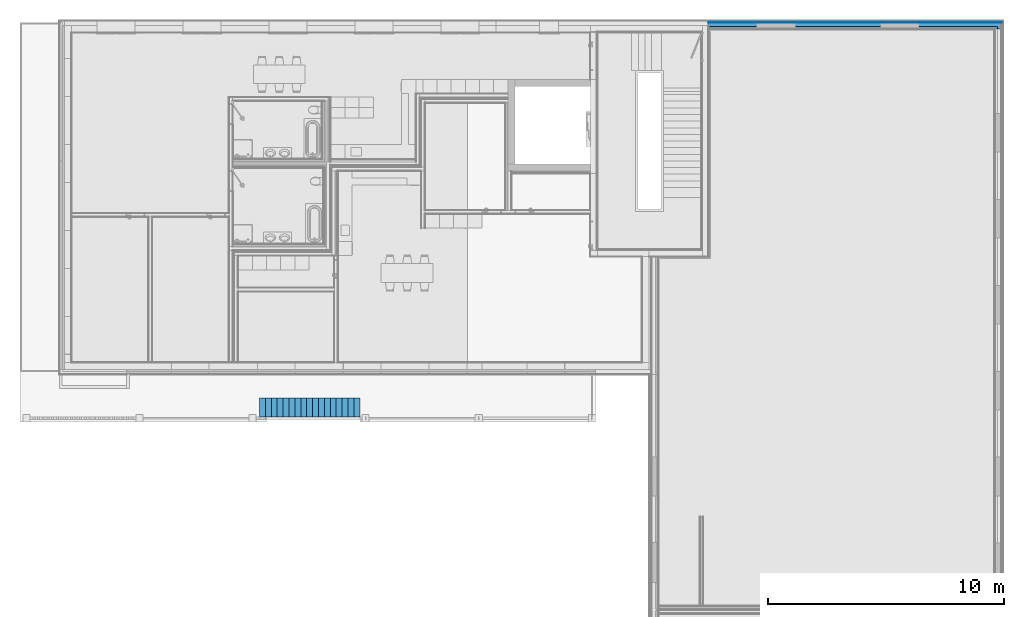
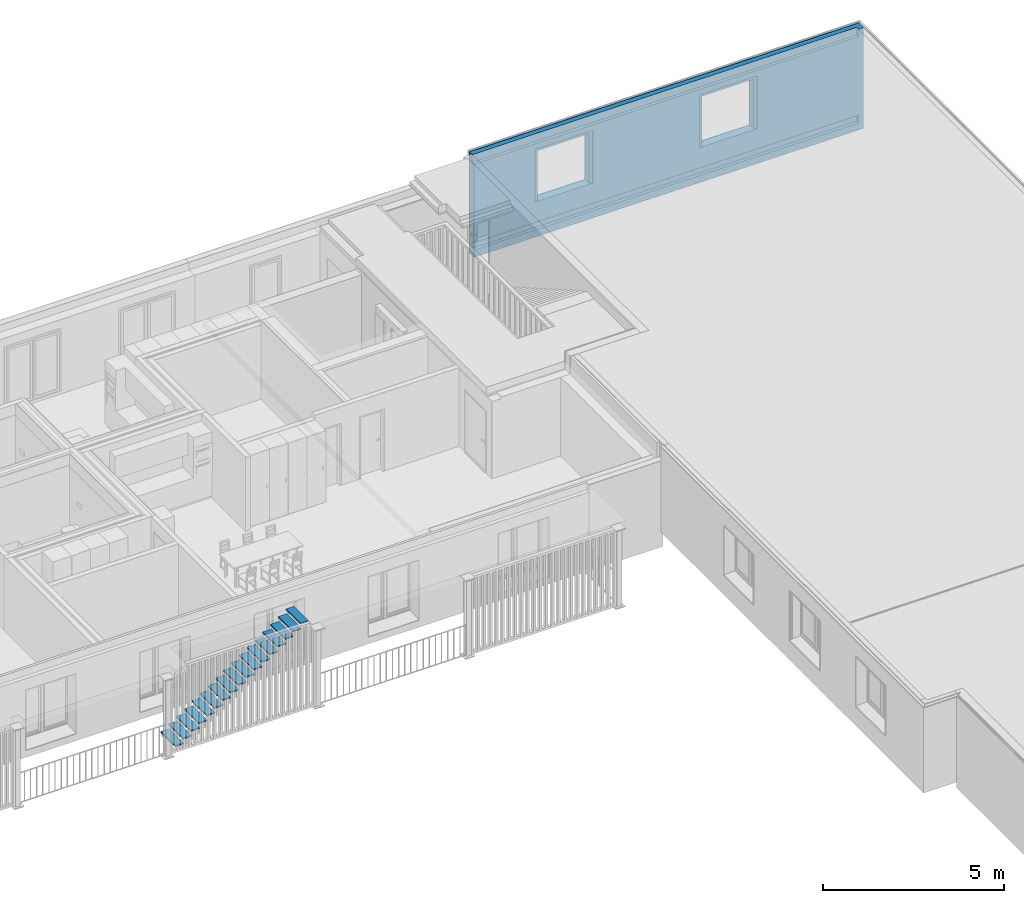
# One storey, part 20 of 34: 19 building element parts, 2 openings, 2 elements without a shape of their own.
"""IFC4 building model written with IfcOpenShell, lengths in millimetres."""

from ifc_helpers import new_model, entity, si_unit, converted_unit, derived_unit, direction, frame, origin_with_axes, place, context, subcontext, project, spatial, polygons, material, type_object, element, aggregate, save


model = new_model("IFC4")

# Units and contexts
model_context = context("Model", 3, precision=0.01, world=origin_with_axes(), true_north=direction((0.0, 1.0)))
body_context = subcontext(model_context, "Body", "Model", "MODEL_VIEW")
ifc_project = project(units=[si_unit("LENGTHUNIT", "METRE", prefix="MILLI"), si_unit("AREAUNIT", "SQUARE_METRE"), si_unit("VOLUMEUNIT", "CUBIC_METRE"), converted_unit("PLANEANGLEUNIT", "DEGREE", entity("IfcPlaneAngleMeasure", 0.0174532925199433), si_unit("PLANEANGLEUNIT", "RADIAN"), dimensions=[0, 0, 0, 0, 0, 0, 0]), converted_unit("TIMEUNIT", "Year", entity("IfcTimeMeasure", 31557600.0), si_unit("TIMEUNIT", "SECOND"), dimensions=[0, 0, 1, 0, 0, 0, 0]), si_unit("MASSUNIT", "GRAM", prefix="KILO"), si_unit("THERMODYNAMICTEMPERATUREUNIT", "DEGREE_CELSIUS"), si_unit("LUMINOUSINTENSITYUNIT", "LUMEN"), si_unit("ENERGYUNIT", "JOULE", prefix="MEGA"), derived_unit("THERMALCONDUCTANCEUNIT", [(si_unit("POWERUNIT", "WATT"), 1), (si_unit("LENGTHUNIT", "METRE"), -1), (si_unit("THERMODYNAMICTEMPERATUREUNIT", "KELVIN"), -1)]), derived_unit("SPECIFICHEATCAPACITYUNIT", [(si_unit("ENERGYUNIT", "JOULE"), 1), (si_unit("MASSUNIT", "GRAM", prefix="KILO"), -1), (si_unit("THERMODYNAMICTEMPERATUREUNIT", "KELVIN"), -1)]), derived_unit("MASSDENSITYUNIT", [(si_unit("MASSUNIT", "GRAM", prefix="KILO"), 1), (si_unit("VOLUMEUNIT", "CUBIC_METRE"), -1)])], contexts=[model_context])

# Site, building, storey
site_placement = place(None, origin_with_axes())
site = spatial("IfcSite", under=ifc_project, at=site_placement, Name="Gelände", CompositionType="ELEMENT")
building_placement = place(site_placement, origin_with_axes())
building = spatial("IfcBuilding", under=site, at=building_placement, Name="Gebäude", CompositionType="ELEMENT")
storey_placement = place(building_placement, frame((0.0, 0.0, 2900.0), z_axis=(0.0, 0.0, 1.0), x_axis=(1.0, 0.0, 0.0)))
storey = spatial("IfcBuildingStorey", under=building, at=storey_placement, Name="1.OG", CompositionType="ELEMENT", Elevation=2900.0)

# Wall, openings, building element parts
wall_type = type_object("IfcWallType", Name="Aussenwand Typ 01 318", PredefinedType="NOTDEFINED")
wall_placement = place(storey_placement, frame((32857.99744477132, 37876.59728131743, 0.0), z_axis=(0.0, 0.0, 1.0), x_axis=(-1.0, 0.0, 0.0)))
wall = element("IfcWall", 1, at=wall_placement, inside=storey, type_object=wall_type, Name="Wand-014", PredefinedType="NOTDEFINED")
opening_1_placement = place(wall_placement, frame((4321.000000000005, 0.0, 1240.0), z_axis=(0.0, 0.0, 1.0), x_axis=(1.0, 0.0, 0.0)))
element("IfcOpeningElement", 2, at=opening_1_placement, cuts=wall, Name="Fenster-004", context=body_context, identifier="Reference", shape_type="Tessellation", body=[
    polygons([(821.0000000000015, 250.0, 1621.0), (-821.0000000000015, 250.0, 1621.0), (-821.0000000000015, -0.9999999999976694, 1621.0), (821.0000000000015, -0.9999999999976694, 1621.0), (800.0000000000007, 0.0, 1621.0), (-800.0000000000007, 0.0, 1621.0), (-800.0000000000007, 149.9999999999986, 1621.0), (800.0000000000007, 149.9999999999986, 1621.0), (-821.0000000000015, 250.0, -59.99999999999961), (821.0000000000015, 250.0, -59.99999999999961), (920.9999999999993, 250.0, -59.99999999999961), (920.9999999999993, 250.0, 1721.0), (-920.9999999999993, 250.0, 1721.0), (-920.9999999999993, 250.0, -59.99999999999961), (-821.0000000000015, -0.9999999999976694, -59.99999999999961), (821.0000000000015, -0.9999999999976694, -59.99999999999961), (800.0000000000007, 0.0, 1890.0), (-800.0000000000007, 0.0, 1890.0), (-800.0000000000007, 149.9999999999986, 1890.0), (800.0000000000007, 149.9999999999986, 1890.0), (-920.9999999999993, 318.9999999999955, -59.99999999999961), (920.9999999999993, 318.9999999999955, -59.99999999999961), (920.9999999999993, 318.9999999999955, 1721.0), (-920.9999999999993, 318.9999999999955, 1721.0)], [[[1, 2, 3, 4], [5, 6, 7, 8]], [[9, 2, 1, 10, 11, 12, 13, 14]], [[2, 9, 15, 3]], [[3, 15, 16, 4]], [[10, 1, 4, 16]], [[6, 5, 17, 18]], [[7, 6, 18, 19]], [[8, 7, 19, 20]], [[5, 8, 20, 17]], [[10, 9, 14, 21, 22, 11]], [[12, 11, 22, 23]], [[13, 12, 23, 24]], [[14, 13, 24, 21]], [[9, 10, 16, 15]], [[19, 18, 17, 20]], [[23, 22, 21, 24]]], closed=True),
])
opening_2_placement = place(wall_placement, frame((9563.000000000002, 0.0, 1240.0), z_axis=(0.0, 0.0, 1.0), x_axis=(1.0, 0.0, 0.0)))
element("IfcOpeningElement", 3, at=opening_2_placement, cuts=wall, Name="Fenster-004", context=body_context, identifier="Reference", shape_type="Tessellation", body=[
    polygons([(821.0000000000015, 250.0, 1621.0), (-821.0000000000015, 250.0, 1621.0), (-821.0000000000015, -0.9999999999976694, 1621.0), (821.0000000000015, -0.9999999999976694, 1621.0), (800.0000000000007, 0.0, 1621.0), (-800.0000000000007, 0.0, 1621.0), (-800.0000000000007, 149.9999999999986, 1621.0), (800.0000000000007, 149.9999999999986, 1621.0), (-821.0000000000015, 250.0, -59.99999999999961), (821.0000000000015, 250.0, -59.99999999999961), (920.9999999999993, 250.0, -59.99999999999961), (920.9999999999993, 250.0, 1721.0), (-920.9999999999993, 250.0, 1721.0), (-920.9999999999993, 250.0, -59.99999999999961), (-821.0000000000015, -0.9999999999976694, -59.99999999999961), (821.0000000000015, -0.9999999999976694, -59.99999999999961), (800.0000000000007, 0.0, 1890.0), (-800.0000000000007, 0.0, 1890.0), (-800.0000000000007, 149.9999999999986, 1890.0), (800.0000000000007, 149.9999999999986, 1890.0), (-920.9999999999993, 318.9999999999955, -59.99999999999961), (920.9999999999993, 318.9999999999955, -59.99999999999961), (920.9999999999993, 318.9999999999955, 1721.0), (-920.9999999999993, 318.9999999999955, 1721.0)], [[[1, 2, 3, 4], [5, 6, 7, 8]], [[9, 2, 1, 10, 11, 12, 13, 14]], [[2, 9, 15, 3]], [[3, 15, 16, 4]], [[10, 1, 4, 16]], [[6, 5, 17, 18]], [[7, 6, 18, 19]], [[8, 7, 19, 20]], [[5, 8, 20, 17]], [[10, 9, 14, 21, 22, 11]], [[12, 11, 22, 23]], [[13, 12, 23, 24]], [[14, 13, 24, 21]], [[9, 10, 16, 15]], [[19, 18, 17, 20]], [[23, 22, 21, 24]]], closed=True),
])
ifc_material_1 = material(Name="Ständer Konstruktion gedämmt")
building_element_part_1_placement = place(wall_placement, origin_with_axes())
building_element_part_1 = element("IfcBuildingElementPart", 4, at=building_element_part_1_placement, material=ifc_material_1, Name="Ständer Konstruktion gedämmt", PredefinedType="NOTDEFINED", context=body_context, shape_type="Tessellation", body=[
    polygons([(18.00000000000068, 18.00000000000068, 500.0), (18.00000000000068, 18.00000000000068, 0.0), (12429.00000000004, 18.00000000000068, 0.0), (12429.00000000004, 18.00000000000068, 3399.999999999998), (18.00000000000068, 18.00000000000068, 3399.999999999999), (3520.999999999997, 18.00000000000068, 3130.0), (5120.999999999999, 18.00000000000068, 3130.0), (5120.999999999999, 18.00000000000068, 2861.0), (5141.999999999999, 18.00000000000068, 2861.0), (5141.999999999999, 18.00000000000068, 1180.0), (3499.999999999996, 18.00000000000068, 1180.0), (3499.999999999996, 18.00000000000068, 2861.0), (3520.999999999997, 18.00000000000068, 2861.0), (10363.0, 18.00000000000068, 3130.0), (10363.0, 18.00000000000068, 2861.0), (10384.0, 18.00000000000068, 2861.0), (10384.0, 18.00000000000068, 1180.0), (8741.999999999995, 18.00000000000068, 1180.0), (8741.999999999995, 18.00000000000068, 2861.0), (8762.999999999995, 18.00000000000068, 2861.0), (8762.999999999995, 18.00000000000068, 3130.0), (18.00000000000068, 277.9999999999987, 3399.999999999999), (18.00000000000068, 277.9999999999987, 500.0), (18.00000000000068, 277.9999999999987, 0.0), (12429.00000000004, 277.9999999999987, 0.0), (12429.00000000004, 277.9999999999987, 243.9999999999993), (12429.00000000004, 177.9999999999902, 243.9999999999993), (12429.00000000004, 177.9999999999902, 499.9999999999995), (12429.00000000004, 277.9999999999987, 499.9999999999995), (12429.00000000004, 277.9999999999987, 3143.999948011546), (12429.00000000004, 177.9999999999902, 3143.999948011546), (12429.00000000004, 177.9999999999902, 3399.999948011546), (177.9999999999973, 177.9999999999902, 3399.999948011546), (177.9999999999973, 277.9999999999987, 3399.999948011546), (5120.999999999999, 149.9999999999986, 3130.0), (3520.999999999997, 149.9999999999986, 3130.0), (5120.999999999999, 149.9999999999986, 2861.0), (3520.999999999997, 149.9999999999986, 2861.0), (3499.999999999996, 250.0, 2861.0), (5141.999999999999, 250.0, 2861.0), (5141.999999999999, 250.0, 1180.0), (3499.999999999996, 250.0, 1180.0), (10363.0, 149.9999999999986, 3130.0), (10363.0, 149.9999999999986, 2861.0), (8762.999999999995, 149.9999999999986, 2861.0), (8741.999999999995, 250.0, 2861.0), (10384.0, 250.0, 2861.0), (10384.0, 250.0, 1180.0), (8741.999999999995, 250.0, 1180.0), (8762.999999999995, 149.9999999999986, 3130.0), (177.9999999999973, 277.9999999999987, 243.9999999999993), (177.9999999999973, 277.9999999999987, 3143.999948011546), (177.9999999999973, 277.9999999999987, 499.9999999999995), (5241.999999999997, 277.9999999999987, 1180.0), (5241.999999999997, 277.9999999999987, 2961.0), (3399.999999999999, 277.9999999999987, 2961.0), (3399.999999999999, 277.9999999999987, 1180.0), (10483.99999999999, 277.9999999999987, 2961.0), (8641.999999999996, 277.9999999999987, 2961.0), (8641.999999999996, 277.9999999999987, 1180.0), (10483.99999999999, 277.9999999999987, 1180.0), (177.9999999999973, 177.9999999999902, 243.9999999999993), (177.9999999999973, 177.9999999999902, 499.9999999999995), (177.9999999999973, 177.9999999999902, 3143.999948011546), (3399.999999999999, 250.0, 2961.0), (5241.999999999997, 250.0, 2961.0), (5241.999999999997, 250.0, 1180.0), (3399.999999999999, 250.0, 1180.0), (10483.99999999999, 250.0, 2961.0), (10483.99999999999, 250.0, 1180.0), (8641.999999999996, 250.0, 1180.0), (8641.999999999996, 250.0, 2961.0)], [[[1, 2, 3, 4, 5], [6, 7, 8, 9, 10, 11, 12, 13], [14, 15, 16, 17, 18, 19, 20, 21]], [[2, 1, 5, 22, 23, 24]], [[24, 25, 3, 2]], [[4, 3, 25, 26, 27, 28, 29, 30, 31, 32]], [[33, 34, 22, 5, 4, 32]], [[35, 7, 6, 36]], [[37, 8, 7, 35]], [[37, 38, 13, 12, 39, 40, 9, 8]], [[40, 41, 10, 9]], [[41, 42, 11, 10]], [[42, 39, 12, 11]], [[36, 6, 13, 38]], [[15, 14, 43, 44]], [[45, 20, 19, 46, 47, 16, 15, 44]], [[48, 17, 16, 47]], [[49, 18, 17, 48]], [[46, 19, 18, 49]], [[21, 20, 45, 50]], [[14, 21, 50, 43]], [[51, 26, 25, 24, 23, 22, 34, 52, 30, 29, 53], [54, 55, 56, 57], [58, 59, 60, 61]], [[62, 27, 26, 51]], [[62, 63, 28, 27]], [[28, 63, 53, 29]], [[64, 31, 30, 52]], [[64, 33, 32, 31]], [[52, 34, 33, 64]], [[36, 38, 37, 35]], [[65, 66, 67, 41, 40, 39, 42, 68]], [[54, 57, 68, 42, 41, 67]], [[45, 44, 43, 50]], [[69, 70, 48, 47, 46, 49, 71, 72]], [[49, 48, 70, 61, 60, 71]], [[51, 53, 63, 62]], [[55, 54, 67, 66]], [[56, 55, 66, 65]], [[57, 56, 65, 68]], [[58, 69, 72, 59]], [[59, 72, 71, 60]], [[61, 70, 69, 58]]], closed=True),
])
ifc_material_2 = material(Name="Grobspanplatte-OSB")
building_element_part_2_placement = place(wall_placement, origin_with_axes())
building_element_part_2 = element("IfcBuildingElementPart", 5, at=building_element_part_2_placement, material=ifc_material_2, Name="Grobspanplatte-OSB", PredefinedType="NOTDEFINED", context=body_context, shape_type="Tessellation", body=[
    polygons([(-1.490114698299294e-06, 0.0, 0.0), (12429.00000000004, 0.0, 0.0), (12429.00000000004, 0.0, 3399.999999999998), (1.490114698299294e-06, 0.0, 3399.999999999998), (1.490114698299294e-06, 0.0, 499.9999999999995), (5141.999999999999, 0.0, 2861.0), (5141.999999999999, 0.0, 1180.0), (3499.999999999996, 0.0, 1180.0), (3499.999999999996, 0.0, 2861.0), (3520.999999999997, 0.0, 2861.0), (3520.999999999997, 0.0, 3130.0), (5120.999999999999, 0.0, 3130.0), (5120.999999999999, 0.0, 2861.0), (10363.0, 0.0, 3130.0), (10363.0, 0.0, 2861.0), (10384.0, 0.0, 2861.0), (10384.0, 0.0, 1180.0), (8741.999999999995, 0.0, 1180.0), (8741.999999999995, 0.0, 2861.0), (8762.999999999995, 0.0, 2861.0), (8762.999999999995, 0.0, 3130.0), (-1.490114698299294e-06, 18.00000000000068, 0.0), (12429.00000000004, 18.00000000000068, 0.0), (12429.00000000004, 18.00000000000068, 3399.999999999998), (1.490114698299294e-06, 18.00000000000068, 3399.999999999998), (5141.999999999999, 18.00000000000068, 1180.0), (5141.999999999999, 18.00000000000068, 2861.0), (3499.999999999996, 18.00000000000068, 1180.0), (3499.999999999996, 18.00000000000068, 2861.0), (3520.999999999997, 18.00000000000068, 2861.0), (3520.999999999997, 18.00000000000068, 3130.0), (5120.999999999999, 18.00000000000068, 3130.0), (5120.999999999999, 18.00000000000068, 2861.0), (10363.0, 18.00000000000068, 3130.0), (10363.0, 18.00000000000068, 2861.0), (10384.0, 18.00000000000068, 2861.0), (10384.0, 18.00000000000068, 1180.0), (8741.999999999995, 18.00000000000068, 1180.0), (8741.999999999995, 18.00000000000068, 2861.0), (8762.999999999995, 18.00000000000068, 2861.0), (8762.999999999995, 18.00000000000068, 3130.0)], [[[1, 2, 3, 4, 5], [6, 7, 8, 9, 10, 11, 12, 13], [14, 15, 16, 17, 18, 19, 20, 21]], [[2, 1, 22, 23]], [[3, 2, 23, 24]], [[24, 25, 4, 3]], [[25, 22, 1, 5, 4]], [[26, 7, 6, 27]], [[28, 8, 7, 26]], [[29, 9, 8, 28]], [[9, 29, 30, 10]], [[30, 31, 11, 10]], [[31, 32, 12, 11]], [[32, 33, 13, 12]], [[27, 6, 13, 33]], [[15, 14, 34, 35]], [[15, 35, 36, 16]], [[16, 36, 37, 17]], [[17, 37, 38, 18]], [[18, 38, 39, 19]], [[40, 20, 19, 39]], [[21, 20, 40, 41]], [[14, 21, 41, 34]], [[22, 25, 24, 23], [29, 28, 26, 27, 33, 32, 31, 30], [41, 40, 39, 38, 37, 36, 35, 34]]], closed=True),
])
aggregate(wall, [building_element_part_1, building_element_part_2])

# Stair, building element parts
stair_type = type_object("IfcStairType", Name="Treppentyp 01 - Metall - Holz", PredefinedType="NOTDEFINED")
stair_placement = place(storey_placement, frame((967.6586056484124, 21069.06207956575, 0.0), z_axis=(0.0, 0.0, 1.0), x_axis=(-0.01941475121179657, 0.9998115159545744, 0.0)))
stair = element("IfcStair", 6, at=stair_placement, inside=storey, type_object=stair_type, Name="Treppe-001", PredefinedType="NOTDEFINED")
ifc_material_3 = material(Name="Massivholz")
building_element_part_3_placement = place(stair_placement, origin_with_axes())
building_element_part_3 = element("IfcBuildingElementPart", 7, at=building_element_part_3_placement, material=ifc_material_3, Name="Massivholz", PredefinedType="NOTDEFINED", context=body_context, shape_type="Tessellation", body=[
    polygons([(879.8492127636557, -455.9051972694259, 130.5882352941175), (79.9999999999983, -440.3733962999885, 130.5882352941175), (79.9999999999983, -440.3733962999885, 170.5882352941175), (879.8492127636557, -455.9051972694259, 170.5882352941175), (874.4130824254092, -735.8524216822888, 130.5882352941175), (74.56386958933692, -720.3206244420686, 130.5882352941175), (74.56386958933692, -720.3206244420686, 170.5882352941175), (874.4130824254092, -735.8524216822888, 170.5882352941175)], [[[1, 2, 3, 4]], [[1, 5, 6, 2]], [[2, 6, 7, 3]], [[4, 3, 7, 8]], [[5, 1, 4, 8]], [[6, 5, 8, 7]]], closed=True),
])
building_element_part_4_placement = place(stair_placement, origin_with_axes())
building_element_part_4 = element("IfcBuildingElementPart", 8, at=building_element_part_4_placement, material=ifc_material_3, Name="Massivholz", PredefinedType="NOTDEFINED", context=body_context, shape_type="Tessellation", body=[
    polygons([(874.9955249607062, -705.8580762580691, 301.1764705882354), (75.14631219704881, -690.3262752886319, 301.1764705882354), (75.14631219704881, -690.3262752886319, 341.1764705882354), (874.9955249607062, -705.8580762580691, 341.1764705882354), (869.5593946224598, -985.8053006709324, 301.1764705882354), (69.71018178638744, -970.2735034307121, 301.1764705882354), (69.71018178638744, -970.2735034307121, 341.1764705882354), (869.5593946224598, -985.8053006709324, 341.1764705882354)], [[[1, 2, 3, 4]], [[1, 5, 6, 2]], [[2, 6, 7, 3]], [[4, 3, 7, 8]], [[5, 1, 4, 8]], [[6, 5, 8, 7]]], closed=True),
])
building_element_part_5_placement = place(stair_placement, origin_with_axes())
building_element_part_5 = element("IfcBuildingElementPart", 9, at=building_element_part_5_placement, material=ifc_material_3, Name="Massivholz", PredefinedType="NOTDEFINED", context=body_context, shape_type="Tessellation", body=[
    polygons([(870.1418371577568, -955.8109552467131, 471.7647058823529), (70.29262439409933, -940.2791542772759, 471.7647058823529), (70.29262439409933, -940.2791542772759, 511.7647058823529), (870.1418371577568, -955.8109552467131, 511.7647058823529), (864.7057068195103, -1235.758179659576, 471.7647058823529), (64.85649398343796, -1220.226382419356, 471.7647058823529), (64.85649398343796, -1220.226382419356, 511.7647058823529), (864.7057068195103, -1235.758179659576, 511.7647058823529)], [[[1, 2, 3, 4]], [[1, 5, 6, 2]], [[2, 6, 7, 3]], [[4, 3, 7, 8]], [[5, 1, 4, 8]], [[6, 5, 8, 7]]], closed=True),
])
building_element_part_6_placement = place(stair_placement, origin_with_axes())
building_element_part_6 = element("IfcBuildingElementPart", 10, at=building_element_part_6_placement, material=ifc_material_3, Name="Massivholz", PredefinedType="NOTDEFINED", context=body_context, shape_type="Tessellation", body=[
    polygons([(860.4344615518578, -1455.716713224, 812.9411764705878), (60.58524878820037, -1440.184912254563, 812.9411764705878), (60.58524878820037, -1440.184912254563, 852.9411764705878), (860.4344615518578, -1455.716713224, 852.9411764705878), (854.9983312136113, -1735.663937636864, 812.9411764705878), (55.149118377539, -1720.132140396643, 812.9411764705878), (55.149118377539, -1720.132140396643, 852.9411764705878), (854.9983312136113, -1735.663937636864, 852.9411764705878)], [[[1, 2, 3, 4]], [[1, 5, 6, 2]], [[2, 6, 7, 3]], [[4, 3, 7, 8]], [[5, 1, 4, 8]], [[6, 5, 8, 7]]], closed=True),
])
building_element_part_7_placement = place(stair_placement, origin_with_axes())
building_element_part_7 = element("IfcBuildingElementPart", 11, at=building_element_part_7_placement, material=ifc_material_3, Name="Massivholz", PredefinedType="NOTDEFINED", context=body_context, shape_type="Tessellation", body=[
    polygons([(855.5807737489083, -1705.669592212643, 983.5294117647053), (55.73156098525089, -1690.137791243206, 983.5294117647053), (55.73156098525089, -1690.137791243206, 1023.529411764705), (855.5807737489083, -1705.669592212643, 1023.529411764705), (850.1446434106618, -1985.616816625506, 983.5294117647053), (50.29543057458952, -1970.085019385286, 983.5294117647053), (50.29543057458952, -1970.085019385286, 1023.529411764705), (850.1446434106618, -1985.616816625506, 1023.529411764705)], [[[1, 2, 3, 4]], [[1, 5, 6, 2]], [[2, 6, 7, 3]], [[4, 3, 7, 8]], [[5, 1, 4, 8]], [[6, 5, 8, 7]]], closed=True),
])
building_element_part_8_placement = place(stair_placement, origin_with_axes())
building_element_part_8 = element("IfcBuildingElementPart", 12, at=building_element_part_8_placement, material=ifc_material_3, Name="Massivholz", PredefinedType="NOTDEFINED", context=body_context, shape_type="Tessellation", body=[
    polygons([(850.7270859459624, -1955.622471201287, 1154.117647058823), (50.87787318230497, -1940.090670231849, 1154.117647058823), (50.87787318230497, -1940.090670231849, 1194.117647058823), (850.7270859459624, -1955.622471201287, 1194.117647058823), (845.2909556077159, -2235.56969561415, 1154.117647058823), (45.44174277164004, -2220.03789837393, 1154.117647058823), (45.44174277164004, -2220.03789837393, 1194.117647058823), (845.2909556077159, -2235.56969561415, 1194.117647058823)], [[[1, 2, 3, 4]], [[1, 5, 6, 2]], [[2, 6, 7, 3]], [[4, 3, 7, 8]], [[5, 1, 4, 8]], [[6, 5, 8, 7]]], closed=True),
])
building_element_part_9_placement = place(stair_placement, origin_with_axes())
building_element_part_9 = element("IfcBuildingElementPart", 13, at=building_element_part_9_placement, material=ifc_material_3, Name="Massivholz", PredefinedType="NOTDEFINED", context=body_context, shape_type="Tessellation", body=[
    polygons([(845.8733981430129, -2205.57535018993, 1324.70588235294), (46.02418537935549, -2190.043549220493, 1324.70588235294), (46.02418537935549, -2190.043549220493, 1364.70588235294), (845.8733981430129, -2205.57535018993, 1364.70588235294), (840.4372678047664, -2485.522574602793, 1324.70588235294), (40.58805496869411, -2469.990777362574, 1324.70588235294), (40.58805496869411, -2469.990777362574, 1364.70588235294), (840.4372678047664, -2485.522574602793, 1364.70588235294)], [[[1, 2, 3, 4]], [[1, 5, 6, 2]], [[2, 6, 7, 3]], [[4, 3, 7, 8]], [[5, 1, 4, 8]], [[6, 5, 8, 7]]], closed=True),
])
building_element_part_10_placement = place(stair_placement, origin_with_axes())
building_element_part_10 = element("IfcBuildingElementPart", 14, at=building_element_part_10_placement, material=ifc_material_3, Name="Massivholz", PredefinedType="NOTDEFINED", context=body_context, shape_type="Tessellation", body=[
    polygons([(841.0197103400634, -2455.528229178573, 1495.294117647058), (41.17049757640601, -2439.996428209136, 1495.294117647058), (41.17049757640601, -2439.996428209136, 1535.294117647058), (841.0197103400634, -2455.528229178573, 1535.294117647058), (835.5835800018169, -2735.475453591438, 1495.294117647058), (35.73436716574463, -2719.943656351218, 1495.294117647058), (35.73436716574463, -2719.943656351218, 1535.294117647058), (835.5835800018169, -2735.475453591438, 1535.294117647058)], [[[1, 2, 3, 4]], [[1, 5, 6, 2]], [[2, 6, 7, 3]], [[4, 3, 7, 8]], [[5, 1, 4, 8]], [[6, 5, 8, 7]]], closed=True),
])
building_element_part_11_placement = place(stair_placement, origin_with_axes())
building_element_part_11 = element("IfcBuildingElementPart", 15, at=building_element_part_11_placement, material=ifc_material_3, Name="Massivholz", PredefinedType="NOTDEFINED", context=body_context, shape_type="Tessellation", body=[
    polygons([(836.1660225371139, -2705.481108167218, 1665.882352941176), (36.31680977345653, -2689.94930719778, 1665.882352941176), (36.31680977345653, -2689.94930719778, 1705.882352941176), (836.1660225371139, -2705.481108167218, 1705.882352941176), (830.7298921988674, -2985.428332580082, 1665.882352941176), (30.88067936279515, -2969.896535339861, 1665.882352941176), (30.88067936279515, -2969.896535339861, 1705.882352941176), (830.7298921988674, -2985.428332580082, 1705.882352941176)], [[[1, 2, 3, 4]], [[1, 5, 6, 2]], [[2, 6, 7, 3]], [[4, 3, 7, 8]], [[5, 1, 4, 8]], [[6, 5, 8, 7]]], closed=True),
])
building_element_part_12_placement = place(stair_placement, origin_with_axes())
building_element_part_12 = element("IfcBuildingElementPart", 16, at=building_element_part_12_placement, material=ifc_material_3, Name="Massivholz", PredefinedType="NOTDEFINED", context=body_context, shape_type="Tessellation", body=[
    polygons([(831.3123347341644, -2955.433987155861, 1836.470588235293), (31.46312197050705, -2939.902186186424, 1836.470588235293), (31.46312197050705, -2939.902186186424, 1876.470588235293), (831.3123347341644, -2955.433987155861, 1876.470588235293), (825.876204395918, -3235.381211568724, 1836.470588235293), (26.02699155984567, -3219.849414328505, 1836.470588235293), (26.02699155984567, -3219.849414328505, 1876.470588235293), (825.876204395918, -3235.381211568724, 1876.470588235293)], [[[1, 2, 3, 4]], [[1, 5, 6, 2]], [[2, 6, 7, 3]], [[4, 3, 7, 8]], [[5, 1, 4, 8]], [[6, 5, 8, 7]]], closed=True),
])
building_element_part_13_placement = place(stair_placement, origin_with_axes())
building_element_part_13 = element("IfcBuildingElementPart", 17, at=building_element_part_13_placement, material=ifc_material_3, Name="Massivholz", PredefinedType="NOTDEFINED", context=body_context, shape_type="Tessellation", body=[
    polygons([(821.6049591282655, -3455.339745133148, 2177.647058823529), (21.75574636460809, -3439.807944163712, 2177.647058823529), (21.75574636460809, -3439.807944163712, 2217.647058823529), (821.6049591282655, -3455.339745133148, 2217.647058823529), (816.168828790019, -3735.286969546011, 2177.647058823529), (16.31961595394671, -3719.755172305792, 2177.647058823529), (16.31961595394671, -3719.755172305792, 2217.647058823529), (816.168828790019, -3735.286969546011, 2217.647058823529)], [[[1, 2, 3, 4]], [[1, 5, 6, 2]], [[2, 6, 7, 3]], [[4, 3, 7, 8]], [[5, 1, 4, 8]], [[6, 5, 8, 7]]], closed=True),
])
building_element_part_14_placement = place(stair_placement, origin_with_axes())
building_element_part_14 = element("IfcBuildingElementPart", 18, at=building_element_part_14_placement, material=ifc_material_3, Name="Massivholz", PredefinedType="NOTDEFINED", context=body_context, shape_type="Tessellation", body=[
    polygons([(816.751271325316, -3705.292624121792, 2348.235294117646), (16.90205856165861, -3689.760823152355, 2348.235294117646), (16.90205856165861, -3689.760823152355, 2388.235294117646), (816.751271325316, -3705.292624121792, 2388.235294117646), (811.3151409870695, -3985.239848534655, 2348.235294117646), (11.46592815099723, -3969.708051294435, 2348.235294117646), (11.46592815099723, -3969.708051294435, 2388.235294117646), (811.3151409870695, -3985.239848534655, 2388.235294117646)], [[[1, 2, 3, 4]], [[1, 5, 6, 2]], [[2, 6, 7, 3]], [[4, 3, 7, 8]], [[5, 1, 4, 8]], [[6, 5, 8, 7]]], closed=True),
])
building_element_part_15_placement = place(stair_placement, origin_with_axes())
building_element_part_15 = element("IfcBuildingElementPart", 19, at=building_element_part_15_placement, material=ifc_material_3, Name="Massivholz", PredefinedType="NOTDEFINED", context=body_context, shape_type="Tessellation", body=[
    polygons([(811.8975835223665, -3955.245503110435, 2518.823529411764), (12.04837075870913, -3939.713702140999, 2518.823529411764), (12.04837075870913, -3939.713702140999, 2558.823529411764), (811.8975835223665, -3955.245503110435, 2558.823529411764), (806.46145318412, -4235.192727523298, 2518.823529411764), (6.612240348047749, -4219.660930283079, 2518.823529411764), (6.612240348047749, -4219.660930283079, 2558.823529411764), (806.46145318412, -4235.192727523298, 2558.823529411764)], [[[1, 2, 3, 4]], [[1, 5, 6, 2]], [[2, 6, 7, 3]], [[4, 3, 7, 8]], [[5, 1, 4, 8]], [[6, 5, 8, 7]]], closed=True),
])
building_element_part_16_placement = place(stair_placement, origin_with_axes())
building_element_part_16 = element("IfcBuildingElementPart", 20, at=building_element_part_16_placement, material=ifc_material_3, Name="Massivholz", PredefinedType="NOTDEFINED", context=body_context, shape_type="Tessellation", body=[
    polygons([(807.043895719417, -4205.198382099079, 2689.411764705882), (7.194682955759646, -4189.666581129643, 2689.411764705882), (7.194682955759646, -4189.666581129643, 2729.411764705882), (807.043895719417, -4205.198382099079, 2729.411764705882), (801.6077653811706, -4485.145606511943, 2689.411764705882), (1.758552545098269, -4469.613809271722, 2689.411764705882), (1.758552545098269, -4469.613809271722, 2729.411764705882), (801.6077653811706, -4485.145606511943, 2729.411764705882)], [[[1, 2, 3, 4]], [[1, 5, 6, 2]], [[2, 6, 7, 3]], [[4, 3, 7, 8]], [[5, 1, 4, 8]], [[6, 5, 8, 7]]], closed=True),
])
building_element_part_17_placement = place(stair_placement, origin_with_axes())
building_element_part_17 = element("IfcBuildingElementPart", 21, at=building_element_part_17_placement, material=ifc_material_3, Name="Massivholz", PredefinedType="NOTDEFINED", context=body_context, shape_type="Tessellation", body=[
    polygons([(802.1902079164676, -4455.151261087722, 2859.999999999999), (2.340995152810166, -4439.619460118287, 2859.999999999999), (2.340995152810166, -4439.619460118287, 2899.999999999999), (802.1902079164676, -4455.151261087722, 2899.999999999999), (797.3365201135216, -4705.104140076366, 2859.999999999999), (-2.512692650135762, -4689.57233910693, 2859.999999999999), (-2.512692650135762, -4689.57233910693, 2899.999999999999), (797.3365201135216, -4705.104140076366, 2899.999999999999)], [[[1, 2, 3, 4]], [[1, 5, 6, 2]], [[2, 6, 7, 3]], [[4, 3, 7, 8]], [[5, 1, 4, 8]], [[6, 5, 8, 7]]], closed=True),
])
building_element_part_18_placement = place(stair_placement, origin_with_axes())
building_element_part_18 = element("IfcBuildingElementPart", 22, at=building_element_part_18_placement, material=ifc_material_3, Name="Massivholz", PredefinedType="NOTDEFINED", context=body_context, shape_type="Tessellation", body=[
    polygons([(865.2881493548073, -1205.763834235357, 642.3529411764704), (65.43893659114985, -1190.232033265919, 642.3529411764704), (65.43893659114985, -1190.232033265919, 682.3529411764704), (865.2881493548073, -1205.763834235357, 682.3529411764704), (859.8520190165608, -1485.71105864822, 642.3529411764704), (60.00280618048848, -1470.179261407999, 642.3529411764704), (60.00280618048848, -1470.179261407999, 682.3529411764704), (859.8520190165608, -1485.71105864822, 682.3529411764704)], [[[1, 2, 3, 4]], [[1, 5, 6, 2]], [[2, 6, 7, 3]], [[4, 3, 7, 8]], [[5, 1, 4, 8]], [[6, 5, 8, 7]]], closed=True),
])
building_element_part_19_placement = place(stair_placement, origin_with_axes())
building_element_part_19 = element("IfcBuildingElementPart", 23, at=building_element_part_19_placement, material=ifc_material_3, Name="Massivholz", PredefinedType="NOTDEFINED", context=body_context, shape_type="Tessellation", body=[
    polygons([(826.458646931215, -3205.386866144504, 2007.058823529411), (26.60943416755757, -3189.855065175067, 2007.058823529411), (26.60943416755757, -3189.855065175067, 2047.058823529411), (826.458646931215, -3205.386866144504, 2047.058823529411), (821.0225165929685, -3485.334090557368, 2007.058823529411), (21.17330375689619, -3469.802293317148, 2007.058823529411), (21.17330375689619, -3469.802293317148, 2047.058823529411), (821.0225165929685, -3485.334090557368, 2047.058823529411)], [[[1, 2, 3, 4]], [[1, 5, 6, 2]], [[2, 6, 7, 3]], [[4, 3, 7, 8]], [[5, 1, 4, 8]], [[6, 5, 8, 7]]], closed=True),
])
aggregate(stair, [building_element_part_3, building_element_part_4, building_element_part_5, building_element_part_6, building_element_part_7, building_element_part_8, building_element_part_9, building_element_part_10, building_element_part_11, building_element_part_12, building_element_part_13, building_element_part_14, building_element_part_15, building_element_part_16, building_element_part_17, building_element_part_18, building_element_part_19])

save(model, "model.ifc")
